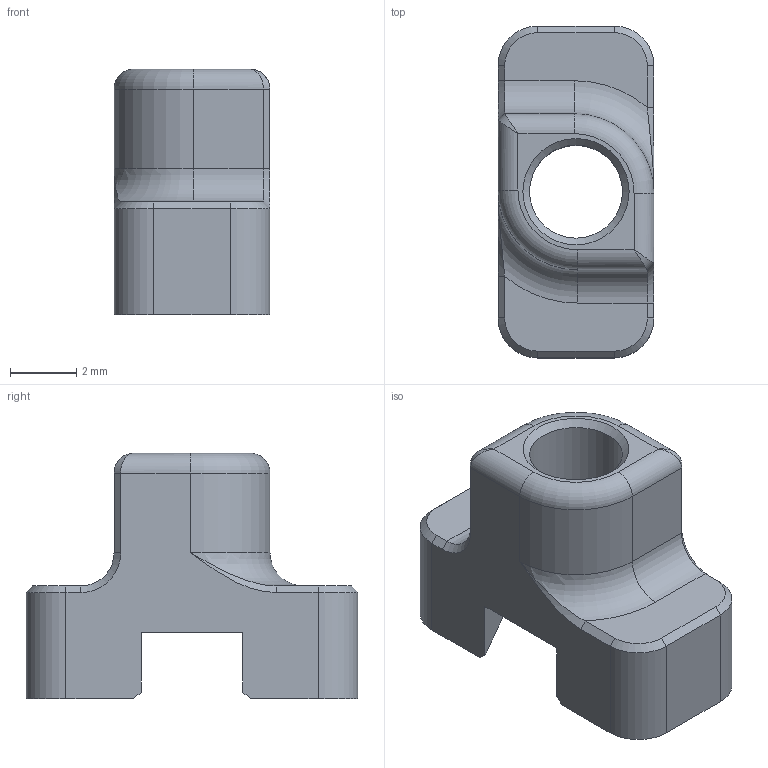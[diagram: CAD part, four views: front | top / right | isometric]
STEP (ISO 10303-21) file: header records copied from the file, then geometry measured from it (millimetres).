
FILE_DESCRIPTION(/* description */ ('STEP AP242','CAx-IF Rec.Pracs.---Representation and Presentation of Product Manufacturing Information (PMI)---4.0---2014-10-13','CAx-IF Rec.Pracs.---3D Tessellated Geometry---0.4---2014-09-14','2;1'),/* implementation_level */ '2;1');
FILE_NAME(/* name */ '62af568fd3ee48715a302955',/* time_stamp */ '2022-06-19T17:02:08+00:00',/* author */ (''),/* organization */ (''),/* preprocessor_version */ 'ST-DEVELOPER v18.102',/* originating_system */ ' ',/* authorisation */ ' ');
FILE_SCHEMA (('AP242_MANAGED_MODEL_BASED_3D_ENGINEERING_MIM_LF { 1 0 10303 442 1 1 4 }'));
Length unit declared in the file: metre
Products named in the file (1): Skadis T-Nut M2.5
Bounding box: 4.7 x 10 x 7.4 mm (x, y, z)
Volume: 157.6 mm3; surface area: 284.3 mm2
Topology: 1 solids, 1 shells, 67 faces, 166 edges, 96 vertices
Faces by surface type: plane 39, cylinder 13, cone 7, torus 4, bspline 4
Full cylindrical faces by diameter (mm): 2.8 x1
Entity records: 1992 total; most frequent: CARTESIAN_POINT 432, ORIENTED_EDGE 320, DIRECTION 312, EDGE_CURVE 160, LINE 112, VECTOR 112, AXIS2_PLACEMENT_3D 100, VERTEX_POINT 96
